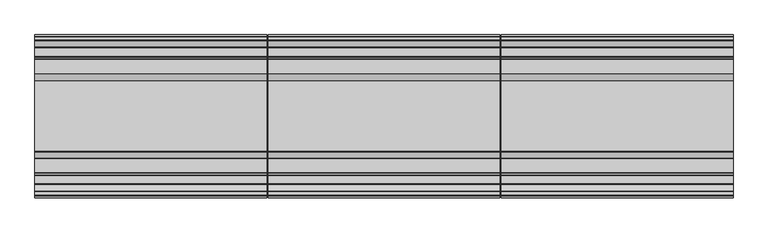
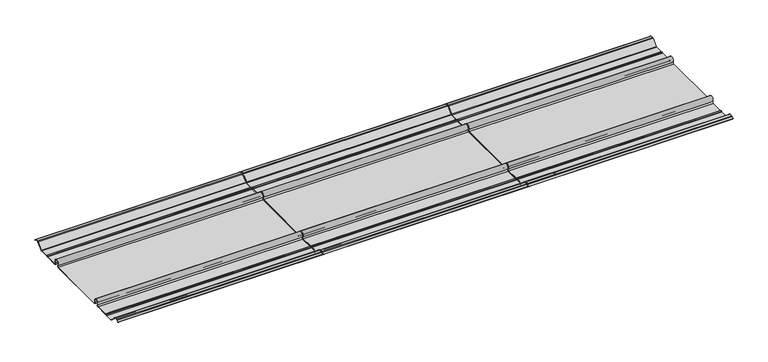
"""IFC4 building model written with IfcOpenShell, lengths in millimetres: proxy geometry, Xlath-LR : Xlath-LR."""

from ifc_helpers import new_model, si_unit, point, frame, frame_2d, origin, place, context, project, spatial, polyline, circle_curve, trimmed, segment, composite_curve, outline, extrude, source, transform, mapped, element, save


def generic_models_d1c0a36d(model_context):
    return source(origin(), model_context, "Body", "SweptSolid", [
        extrude(outline(composite_curve([segment(polyline([(-4.021536, 17.692427), (0.0, 13.8209287), (-0.5628134, 13.2581153), (-4.8173305, 17.3539026)]), True, "CONTINUOUS"), segment(trimmed(circle_curve(frame_2d((-6.6934261, 15.4051)), 2.7051), [point((-4.8173305, 17.3539026))], [point((-6.6934261, 18.1102))], True, "CARTESIAN"), True, "CONTINUOUS"), segment(polyline([(-6.6934261, 18.1102), (-13.8817457, 18.1102)]), True, "CONTINUOUS"), segment(trimmed(circle_curve(frame_2d((-13.8817457, 15.4051)), 2.7051), [point((-13.8817457, 18.1102))], [point((-15.8059623, 17.3064039))], True, "CARTESIAN"), True, "CONTINUOUS"), segment(polyline([(-15.8059623, 17.3064039), (-31.9741011, 0.9434226)]), True, "CONTINUOUS"), segment(trimmed(circle_curve(frame_2d((-34.2325712, 3.175)), 3.175), [point((-31.9741011, 0.9434226))], [point((-34.2325712, 0.0))], False, "CARTESIAN"), True, "CONTINUOUS"), segment(polyline([(-34.2325712, 0.0), (-57.3486405, 0.0)]), True, "CONTINUOUS"), segment(trimmed(circle_curve(frame_2d((-57.3486405, 3.175)), 3.175), [point((-57.3486405, 0.0))], [point((-59.3419174, 0.70367))], False, "CARTESIAN"), True, "CONTINUOUS"), segment(trimmed(circle_curve(frame_2d((-61.3351943, -1.7676601)), 3.175), [point((-59.3419174, 0.70367))], [point((-63.3284712, 0.70367))], True, "CARTESIAN"), True, "CONTINUOUS"), segment(trimmed(circle_curve(frame_2d((-65.3217481, 3.175)), 3.175), [point((-63.3284712, 0.70367))], [point((-65.3217481, 0.0))], False, "CARTESIAN"), True, "CONTINUOUS"), segment(polyline([(-65.3217481, 0.0), (-102.59972, 0.0)]), True, "CONTINUOUS"), segment(trimmed(circle_curve(frame_2d((-102.59972, 3.3362305)), 3.3362305), [point((-102.59972, 0.0))], [point((-105.2911698, 5.3076593))], False, "CARTESIAN"), True, "CONTINUOUS"), segment(trimmed(circle_curve(frame_2d((-111.8031627, 10.0775533)), 8.0720469), [point((-105.2911698, 5.3076593))], [point((-118.3151555, 5.3076593))], True, "CARTESIAN"), True, "CONTINUOUS"), segment(trimmed(circle_curve(frame_2d((-121.0066054, 3.3362305)), 3.3362305), [point((-118.3151555, 5.3076593))], [point((-121.0066054, 0.0))], False, "CARTESIAN"), True, "CONTINUOUS"), segment(polyline([(-121.0066054, 0.0), (-306.0308946, 0.0)]), True, "CONTINUOUS"), segment(trimmed(circle_curve(frame_2d((-306.0308946, 3.3362305)), 3.3362305), [point((-306.0308946, 0.0))], [point((-308.7223445, 5.3076593))], False, "CARTESIAN"), True, "CONTINUOUS"), segment(trimmed(circle_curve(frame_2d((-315.2343373, 10.0775533)), 8.0720469), [point((-308.7223445, 5.3076593))], [point((-321.7463302, 5.3076593))], True, "CARTESIAN"), True, "CONTINUOUS"), segment(trimmed(circle_curve(frame_2d((-324.43778, 3.3362305)), 3.3362305), [point((-321.7463302, 5.3076593))], [point((-324.43778, 0.0))], False, "CARTESIAN"), True, "CONTINUOUS"), segment(polyline([(-324.43778, 0.0), (-361.7157519, 0.0)]), True, "CONTINUOUS"), segment(trimmed(circle_curve(frame_2d((-361.7157519, 3.175)), 3.175), [point((-361.7157519, 0.0))], [point((-363.7090288, 0.70367))], False, "CARTESIAN"), True, "CONTINUOUS"), segment(trimmed(circle_curve(frame_2d((-365.7023057, -1.7676601)), 3.175), [point((-363.7090288, 0.70367))], [point((-367.6955826, 0.70367))], True, "CARTESIAN"), True, "CONTINUOUS"), segment(trimmed(circle_curve(frame_2d((-369.6888595, 3.175)), 3.175), [point((-367.6955826, 0.70367))], [point((-369.6888595, 0.0))], False, "CARTESIAN"), True, "CONTINUOUS"), segment(polyline([(-369.6888595, 0.0), (-391.0183557, 0.0)]), True, "CONTINUOUS"), segment(trimmed(circle_curve(frame_2d((-391.0183557, 3.175)), 3.175), [point((-391.0183557, 0.0))], [point((-393.2768259, 0.9434226))], False, "CARTESIAN"), True, "CONTINUOUS"), segment(polyline([(-393.2768259, 0.9434226), (-409.9092693, 17.7763039)]), True, "CONTINUOUS"), segment(trimmed(circle_curve(frame_2d((-411.8334859, 15.875)), 2.7051), [point((-409.9092693, 17.7763039))], [point((-411.8334859, 18.5801))], True, "CARTESIAN"), True, "CONTINUOUS"), segment(polyline([(-411.8334859, 18.5801), (-420.3440739, 18.5801)]), True, "CONTINUOUS"), segment(trimmed(circle_curve(frame_2d((-420.3440739, 15.875)), 2.7051), [point((-420.3440739, 18.5801))], [point((-422.2201695, 17.8238026))], True, "CARTESIAN"), True, "CONTINUOUS"), segment(polyline([(-422.2201695, 17.8238026), (-426.4855845, 13.717524), (-427.0483979, 14.2803374), (-423.015964, 18.162327)]), True, "CONTINUOUS"), segment(trimmed(circle_curve(frame_2d((-420.8139739, 15.875)), 3.175), [point((-423.015964, 18.162327))], [point((-420.8139739, 19.05))], False, "CARTESIAN"), True, "CONTINUOUS"), segment(polyline([(-420.8139739, 19.05), (-411.8334859, 19.05)]), True, "CONTINUOUS"), segment(trimmed(circle_curve(frame_2d((-411.8334859, 15.875)), 3.175), [point((-411.8334859, 19.05))], [point((-409.5750157, 18.1065774))], False, "CARTESIAN"), True, "CONTINUOUS"), segment(polyline([(-409.5750157, 18.1065774), (-392.9425723, 1.2736961)]), True, "CONTINUOUS"), segment(trimmed(circle_curve(frame_2d((-391.0183557, 3.175)), 2.7051), [point((-392.9425723, 1.2736961))], [point((-391.0183557, 0.4699))], True, "CARTESIAN"), True, "CONTINUOUS"), segment(polyline([(-391.0183557, 0.4699), (-369.8514296, 0.4699)]), True, "CONTINUOUS"), segment(trimmed(circle_curve(frame_2d((-369.8514296, 3.6449)), 3.175), [point((-369.8514296, 0.4699))], [point((-367.9198077, 1.1250862))], True, "CARTESIAN"), True, "CONTINUOUS"), segment(trimmed(circle_curve(frame_2d((-365.7023057, -1.7676601)), 3.6449), [point((-367.9198077, 1.1250862))], [point((-363.4848037, 1.1250862))], False, "CARTESIAN"), True, "CONTINUOUS"), segment(trimmed(circle_curve(frame_2d((-361.5531818, 3.6449)), 3.175), [point((-363.4848037, 1.1250862))], [point((-361.5531818, 0.4699))], True, "CARTESIAN"), True, "CONTINUOUS"), segment(polyline([(-361.5531818, 0.4699), (-324.43778, 0.4699)]), True, "CONTINUOUS"), segment(trimmed(circle_curve(frame_2d((-324.43778, 3.3362305)), 2.8663305), [point((-324.43778, 0.4699))], [point((-322.1254144, 5.0299883))], True, "CARTESIAN"), True, "CONTINUOUS"), segment(trimmed(circle_curve(frame_2d((-315.2343373, 10.0775533)), 8.5419469), [point((-322.1254144, 5.0299883))], [point((-308.3432603, 5.0299883))], False, "CARTESIAN"), True, "CONTINUOUS"), segment(trimmed(circle_curve(frame_2d((-306.0308946, 3.3362305)), 2.8663305), [point((-308.3432603, 5.0299883))], [point((-306.0308946, 0.4699))], True, "CARTESIAN"), True, "CONTINUOUS"), segment(polyline([(-306.0308946, 0.4699), (-121.0066054, 0.4699)]), True, "CONTINUOUS"), segment(trimmed(circle_curve(frame_2d((-121.0066054, 3.3362305)), 2.8663305), [point((-121.0066054, 0.4699))], [point((-118.6942397, 5.0299883))], True, "CARTESIAN"), True, "CONTINUOUS"), segment(trimmed(circle_curve(frame_2d((-111.8031627, 10.0775533)), 8.5419469), [point((-118.6942397, 5.0299883))], [point((-104.9120856, 5.0299883))], False, "CARTESIAN"), True, "CONTINUOUS"), segment(trimmed(circle_curve(frame_2d((-102.59972, 3.3362305)), 2.8663305), [point((-104.9120856, 5.0299883))], [point((-102.59972, 0.4699))], True, "CARTESIAN"), True, "CONTINUOUS"), segment(polyline([(-102.59972, 0.4699), (-65.4843182, 0.4699)]), True, "CONTINUOUS"), segment(trimmed(circle_curve(frame_2d((-65.4843182, 3.6449)), 3.175), [point((-65.4843182, 0.4699))], [point((-63.5526963, 1.1250862))], True, "CARTESIAN"), True, "CONTINUOUS"), segment(trimmed(circle_curve(frame_2d((-61.3351943, -1.7676601)), 3.6449), [point((-63.5526963, 1.1250862))], [point((-59.1176923, 1.1250862))], False, "CARTESIAN"), True, "CONTINUOUS"), segment(trimmed(circle_curve(frame_2d((-57.1860704, 3.6449)), 3.175), [point((-59.1176923, 1.1250862))], [point((-57.1860704, 0.4699))], True, "CARTESIAN"), True, "CONTINUOUS"), segment(polyline([(-57.1860704, 0.4699), (-34.2325712, 0.4699)]), True, "CONTINUOUS"), segment(trimmed(circle_curve(frame_2d((-34.2325712, 3.175)), 2.7051), [point((-34.2325712, 0.4699))], [point((-32.3083547, 1.2736961))], True, "CARTESIAN"), True, "CONTINUOUS"), segment(polyline([(-32.3083547, 1.2736961), (-16.1402159, 17.6366774)]), True, "CONTINUOUS"), segment(trimmed(circle_curve(frame_2d((-13.8817457, 15.4051)), 3.175), [point((-16.1402159, 17.6366774))], [point((-13.8817457, 18.5801))], False, "CARTESIAN"), True, "CONTINUOUS"), segment(polyline([(-13.8817457, 18.5801), (-6.2235261, 18.5801)]), True, "CONTINUOUS"), segment(trimmed(circle_curve(frame_2d((-6.2235261, 15.4051)), 3.175), [point((-6.2235261, 18.5801))], [point((-4.021536, 17.692427))], False, "CARTESIAN"), True, "CONTINUOUS")], self_intersect=False)), frame((1219.2, 0.0, 0.0), z_axis=(1.0, 0.0, 0.0), x_axis=(0.0, 1.0, 0.0)), (0.0, 0.0, 1.0), 606.425),
        extrude(outline(composite_curve([segment(polyline([(-4.021536, 17.692427), (0.0, 13.8209287), (-0.5628134, 13.2581153), (-4.8173305, 17.3539026)]), True, "CONTINUOUS"), segment(trimmed(circle_curve(frame_2d((-6.6934261, 15.4051)), 2.7051), [point((-4.8173305, 17.3539026))], [point((-6.6934261, 18.1102))], True, "CARTESIAN"), True, "CONTINUOUS"), segment(polyline([(-6.6934261, 18.1102), (-13.8817457, 18.1102)]), True, "CONTINUOUS"), segment(trimmed(circle_curve(frame_2d((-13.8817457, 15.4051)), 2.7051), [point((-13.8817457, 18.1102))], [point((-15.8059623, 17.3064039))], True, "CARTESIAN"), True, "CONTINUOUS"), segment(polyline([(-15.8059623, 17.3064039), (-31.9741011, 0.9434226)]), True, "CONTINUOUS"), segment(trimmed(circle_curve(frame_2d((-34.2325712, 3.175)), 3.175), [point((-31.9741011, 0.9434226))], [point((-34.2325712, 0.0))], False, "CARTESIAN"), True, "CONTINUOUS"), segment(polyline([(-34.2325712, 0.0), (-57.3486405, 0.0)]), True, "CONTINUOUS"), segment(trimmed(circle_curve(frame_2d((-57.3486405, 3.175)), 3.175), [point((-57.3486405, 0.0))], [point((-59.3419174, 0.70367))], False, "CARTESIAN"), True, "CONTINUOUS"), segment(trimmed(circle_curve(frame_2d((-61.3351943, -1.7676601)), 3.175), [point((-59.3419174, 0.70367))], [point((-63.3284712, 0.70367))], True, "CARTESIAN"), True, "CONTINUOUS"), segment(trimmed(circle_curve(frame_2d((-65.3217481, 3.175)), 3.175), [point((-63.3284712, 0.70367))], [point((-65.3217481, 0.0))], False, "CARTESIAN"), True, "CONTINUOUS"), segment(polyline([(-65.3217481, 0.0), (-102.59972, 0.0)]), True, "CONTINUOUS"), segment(trimmed(circle_curve(frame_2d((-102.59972, 3.3362305)), 3.3362305), [point((-102.59972, 0.0))], [point((-105.2911698, 5.3076593))], False, "CARTESIAN"), True, "CONTINUOUS"), segment(trimmed(circle_curve(frame_2d((-111.8031627, 10.0775533)), 8.0720469), [point((-105.2911698, 5.3076593))], [point((-118.3151555, 5.3076593))], True, "CARTESIAN"), True, "CONTINUOUS"), segment(trimmed(circle_curve(frame_2d((-121.0066054, 3.3362305)), 3.3362305), [point((-118.3151555, 5.3076593))], [point((-121.0066054, 0.0))], False, "CARTESIAN"), True, "CONTINUOUS"), segment(polyline([(-121.0066054, 0.0), (-306.0308946, 0.0)]), True, "CONTINUOUS"), segment(trimmed(circle_curve(frame_2d((-306.0308946, 3.3362305)), 3.3362305), [point((-306.0308946, 0.0))], [point((-308.7223445, 5.3076593))], False, "CARTESIAN"), True, "CONTINUOUS"), segment(trimmed(circle_curve(frame_2d((-315.2343373, 10.0775533)), 8.0720469), [point((-308.7223445, 5.3076593))], [point((-321.7463302, 5.3076593))], True, "CARTESIAN"), True, "CONTINUOUS"), segment(trimmed(circle_curve(frame_2d((-324.43778, 3.3362305)), 3.3362305), [point((-321.7463302, 5.3076593))], [point((-324.43778, 0.0))], False, "CARTESIAN"), True, "CONTINUOUS"), segment(polyline([(-324.43778, 0.0), (-361.7157519, 0.0)]), True, "CONTINUOUS"), segment(trimmed(circle_curve(frame_2d((-361.7157519, 3.175)), 3.175), [point((-361.7157519, 0.0))], [point((-363.7090288, 0.70367))], False, "CARTESIAN"), True, "CONTINUOUS"), segment(trimmed(circle_curve(frame_2d((-365.7023057, -1.7676601)), 3.175), [point((-363.7090288, 0.70367))], [point((-367.6955826, 0.70367))], True, "CARTESIAN"), True, "CONTINUOUS"), segment(trimmed(circle_curve(frame_2d((-369.6888595, 3.175)), 3.175), [point((-367.6955826, 0.70367))], [point((-369.6888595, 0.0))], False, "CARTESIAN"), True, "CONTINUOUS"), segment(polyline([(-369.6888595, 0.0), (-391.0183557, 0.0)]), True, "CONTINUOUS"), segment(trimmed(circle_curve(frame_2d((-391.0183557, 3.175)), 3.175), [point((-391.0183557, 0.0))], [point((-393.2768259, 0.9434226))], False, "CARTESIAN"), True, "CONTINUOUS"), segment(polyline([(-393.2768259, 0.9434226), (-409.9092693, 17.7763039)]), True, "CONTINUOUS"), segment(trimmed(circle_curve(frame_2d((-411.8334859, 15.875)), 2.7051), [point((-409.9092693, 17.7763039))], [point((-411.8334859, 18.5801))], True, "CARTESIAN"), True, "CONTINUOUS"), segment(polyline([(-411.8334859, 18.5801), (-420.3440739, 18.5801)]), True, "CONTINUOUS"), segment(trimmed(circle_curve(frame_2d((-420.3440739, 15.875)), 2.7051), [point((-420.3440739, 18.5801))], [point((-422.2201695, 17.8238026))], True, "CARTESIAN"), True, "CONTINUOUS"), segment(polyline([(-422.2201695, 17.8238026), (-426.4855845, 13.717524), (-427.0483979, 14.2803374), (-423.015964, 18.162327)]), True, "CONTINUOUS"), segment(trimmed(circle_curve(frame_2d((-420.8139739, 15.875)), 3.175), [point((-423.015964, 18.162327))], [point((-420.8139739, 19.05))], False, "CARTESIAN"), True, "CONTINUOUS"), segment(polyline([(-420.8139739, 19.05), (-411.8334859, 19.05)]), True, "CONTINUOUS"), segment(trimmed(circle_curve(frame_2d((-411.8334859, 15.875)), 3.175), [point((-411.8334859, 19.05))], [point((-409.5750157, 18.1065774))], False, "CARTESIAN"), True, "CONTINUOUS"), segment(polyline([(-409.5750157, 18.1065774), (-392.9425723, 1.2736961)]), True, "CONTINUOUS"), segment(trimmed(circle_curve(frame_2d((-391.0183557, 3.175)), 2.7051), [point((-392.9425723, 1.2736961))], [point((-391.0183557, 0.4699))], True, "CARTESIAN"), True, "CONTINUOUS"), segment(polyline([(-391.0183557, 0.4699), (-369.8514296, 0.4699)]), True, "CONTINUOUS"), segment(trimmed(circle_curve(frame_2d((-369.8514296, 3.6449)), 3.175), [point((-369.8514296, 0.4699))], [point((-367.9198077, 1.1250862))], True, "CARTESIAN"), True, "CONTINUOUS"), segment(trimmed(circle_curve(frame_2d((-365.7023057, -1.7676601)), 3.6449), [point((-367.9198077, 1.1250862))], [point((-363.4848037, 1.1250862))], False, "CARTESIAN"), True, "CONTINUOUS"), segment(trimmed(circle_curve(frame_2d((-361.5531818, 3.6449)), 3.175), [point((-363.4848037, 1.1250862))], [point((-361.5531818, 0.4699))], True, "CARTESIAN"), True, "CONTINUOUS"), segment(polyline([(-361.5531818, 0.4699), (-324.43778, 0.4699)]), True, "CONTINUOUS"), segment(trimmed(circle_curve(frame_2d((-324.43778, 3.3362305)), 2.8663305), [point((-324.43778, 0.4699))], [point((-322.1254144, 5.0299883))], True, "CARTESIAN"), True, "CONTINUOUS"), segment(trimmed(circle_curve(frame_2d((-315.2343373, 10.0775533)), 8.5419469), [point((-322.1254144, 5.0299883))], [point((-308.3432603, 5.0299883))], False, "CARTESIAN"), True, "CONTINUOUS"), segment(trimmed(circle_curve(frame_2d((-306.0308946, 3.3362305)), 2.8663305), [point((-308.3432603, 5.0299883))], [point((-306.0308946, 0.4699))], True, "CARTESIAN"), True, "CONTINUOUS"), segment(polyline([(-306.0308946, 0.4699), (-121.0066054, 0.4699)]), True, "CONTINUOUS"), segment(trimmed(circle_curve(frame_2d((-121.0066054, 3.3362305)), 2.8663305), [point((-121.0066054, 0.4699))], [point((-118.6942397, 5.0299883))], True, "CARTESIAN"), True, "CONTINUOUS"), segment(trimmed(circle_curve(frame_2d((-111.8031627, 10.0775533)), 8.5419469), [point((-118.6942397, 5.0299883))], [point((-104.9120856, 5.0299883))], False, "CARTESIAN"), True, "CONTINUOUS"), segment(trimmed(circle_curve(frame_2d((-102.59972, 3.3362305)), 2.8663305), [point((-104.9120856, 5.0299883))], [point((-102.59972, 0.4699))], True, "CARTESIAN"), True, "CONTINUOUS"), segment(polyline([(-102.59972, 0.4699), (-65.4843182, 0.4699)]), True, "CONTINUOUS"), segment(trimmed(circle_curve(frame_2d((-65.4843182, 3.6449)), 3.175), [point((-65.4843182, 0.4699))], [point((-63.5526963, 1.1250862))], True, "CARTESIAN"), True, "CONTINUOUS"), segment(trimmed(circle_curve(frame_2d((-61.3351943, -1.7676601)), 3.6449), [point((-63.5526963, 1.1250862))], [point((-59.1176923, 1.1250862))], False, "CARTESIAN"), True, "CONTINUOUS"), segment(trimmed(circle_curve(frame_2d((-57.1860704, 3.6449)), 3.175), [point((-59.1176923, 1.1250862))], [point((-57.1860704, 0.4699))], True, "CARTESIAN"), True, "CONTINUOUS"), segment(polyline([(-57.1860704, 0.4699), (-34.2325712, 0.4699)]), True, "CONTINUOUS"), segment(trimmed(circle_curve(frame_2d((-34.2325712, 3.175)), 2.7051), [point((-34.2325712, 0.4699))], [point((-32.3083547, 1.2736961))], True, "CARTESIAN"), True, "CONTINUOUS"), segment(polyline([(-32.3083547, 1.2736961), (-16.1402159, 17.6366774)]), True, "CONTINUOUS"), segment(trimmed(circle_curve(frame_2d((-13.8817457, 15.4051)), 3.175), [point((-16.1402159, 17.6366774))], [point((-13.8817457, 18.5801))], False, "CARTESIAN"), True, "CONTINUOUS"), segment(polyline([(-13.8817457, 18.5801), (-6.2235261, 18.5801)]), True, "CONTINUOUS"), segment(trimmed(circle_curve(frame_2d((-6.2235261, 15.4051)), 3.175), [point((-6.2235261, 18.5801))], [point((-4.021536, 17.692427))], False, "CARTESIAN"), True, "CONTINUOUS")], self_intersect=False)), frame((609.6, 0.0, 0.0), z_axis=(1.0, 0.0, 0.0), x_axis=(0.0, 1.0, 0.0)), (0.0, 0.0, 1.0), 606.425),
        extrude(outline(composite_curve([segment(polyline([(-4.021536, 17.692427), (0.0, 13.8209287), (-0.5628134, 13.2581153), (-4.8173305, 17.3539026)]), True, "CONTINUOUS"), segment(trimmed(circle_curve(frame_2d((-6.6934261, 15.4051)), 2.7051), [point((-4.8173305, 17.3539026))], [point((-6.6934261, 18.1102))], True, "CARTESIAN"), True, "CONTINUOUS"), segment(polyline([(-6.6934261, 18.1102), (-13.8817457, 18.1102)]), True, "CONTINUOUS"), segment(trimmed(circle_curve(frame_2d((-13.8817457, 15.4051)), 2.7051), [point((-13.8817457, 18.1102))], [point((-15.8059623, 17.3064039))], True, "CARTESIAN"), True, "CONTINUOUS"), segment(polyline([(-15.8059623, 17.3064039), (-31.9741011, 0.9434226)]), True, "CONTINUOUS"), segment(trimmed(circle_curve(frame_2d((-34.2325712, 3.175)), 3.175), [point((-31.9741011, 0.9434226))], [point((-34.2325712, 0.0))], False, "CARTESIAN"), True, "CONTINUOUS"), segment(polyline([(-34.2325712, 0.0), (-57.3486405, 0.0)]), True, "CONTINUOUS"), segment(trimmed(circle_curve(frame_2d((-57.3486405, 3.175)), 3.175), [point((-57.3486405, 0.0))], [point((-59.3419174, 0.70367))], False, "CARTESIAN"), True, "CONTINUOUS"), segment(trimmed(circle_curve(frame_2d((-61.3351943, -1.7676601)), 3.175), [point((-59.3419174, 0.70367))], [point((-63.3284712, 0.70367))], True, "CARTESIAN"), True, "CONTINUOUS"), segment(trimmed(circle_curve(frame_2d((-65.3217481, 3.175)), 3.175), [point((-63.3284712, 0.70367))], [point((-65.3217481, 0.0))], False, "CARTESIAN"), True, "CONTINUOUS"), segment(polyline([(-65.3217481, 0.0), (-102.59972, 0.0)]), True, "CONTINUOUS"), segment(trimmed(circle_curve(frame_2d((-102.59972, 3.3362305)), 3.3362305), [point((-102.59972, 0.0))], [point((-105.2911698, 5.3076593))], False, "CARTESIAN"), True, "CONTINUOUS"), segment(trimmed(circle_curve(frame_2d((-111.8031627, 10.0775533)), 8.0720469), [point((-105.2911698, 5.3076593))], [point((-118.3151555, 5.3076593))], True, "CARTESIAN"), True, "CONTINUOUS"), segment(trimmed(circle_curve(frame_2d((-121.0066054, 3.3362305)), 3.3362305), [point((-118.3151555, 5.3076593))], [point((-121.0066054, 0.0))], False, "CARTESIAN"), True, "CONTINUOUS"), segment(polyline([(-121.0066054, 0.0), (-306.0308946, 0.0)]), True, "CONTINUOUS"), segment(trimmed(circle_curve(frame_2d((-306.0308946, 3.3362305)), 3.3362305), [point((-306.0308946, 0.0))], [point((-308.7223445, 5.3076593))], False, "CARTESIAN"), True, "CONTINUOUS"), segment(trimmed(circle_curve(frame_2d((-315.2343373, 10.0775533)), 8.0720469), [point((-308.7223445, 5.3076593))], [point((-321.7463302, 5.3076593))], True, "CARTESIAN"), True, "CONTINUOUS"), segment(trimmed(circle_curve(frame_2d((-324.43778, 3.3362305)), 3.3362305), [point((-321.7463302, 5.3076593))], [point((-324.43778, 0.0))], False, "CARTESIAN"), True, "CONTINUOUS"), segment(polyline([(-324.43778, 0.0), (-361.7157519, 0.0)]), True, "CONTINUOUS"), segment(trimmed(circle_curve(frame_2d((-361.7157519, 3.175)), 3.175), [point((-361.7157519, 0.0))], [point((-363.7090288, 0.70367))], False, "CARTESIAN"), True, "CONTINUOUS"), segment(trimmed(circle_curve(frame_2d((-365.7023057, -1.7676601)), 3.175), [point((-363.7090288, 0.70367))], [point((-367.6955826, 0.70367))], True, "CARTESIAN"), True, "CONTINUOUS"), segment(trimmed(circle_curve(frame_2d((-369.6888595, 3.175)), 3.175), [point((-367.6955826, 0.70367))], [point((-369.6888595, 0.0))], False, "CARTESIAN"), True, "CONTINUOUS"), segment(polyline([(-369.6888595, 0.0), (-391.0183557, 0.0)]), True, "CONTINUOUS"), segment(trimmed(circle_curve(frame_2d((-391.0183557, 3.175)), 3.175), [point((-391.0183557, 0.0))], [point((-393.2768259, 0.9434226))], False, "CARTESIAN"), True, "CONTINUOUS"), segment(polyline([(-393.2768259, 0.9434226), (-409.9092693, 17.7763039)]), True, "CONTINUOUS"), segment(trimmed(circle_curve(frame_2d((-411.8334859, 15.875)), 2.7051), [point((-409.9092693, 17.7763039))], [point((-411.8334859, 18.5801))], True, "CARTESIAN"), True, "CONTINUOUS"), segment(polyline([(-411.8334859, 18.5801), (-420.3440739, 18.5801)]), True, "CONTINUOUS"), segment(trimmed(circle_curve(frame_2d((-420.3440739, 15.875)), 2.7051), [point((-420.3440739, 18.5801))], [point((-422.2201695, 17.8238026))], True, "CARTESIAN"), True, "CONTINUOUS"), segment(polyline([(-422.2201695, 17.8238026), (-426.4855845, 13.717524), (-427.0483979, 14.2803374), (-423.015964, 18.162327)]), True, "CONTINUOUS"), segment(trimmed(circle_curve(frame_2d((-420.8139739, 15.875)), 3.175), [point((-423.015964, 18.162327))], [point((-420.8139739, 19.05))], False, "CARTESIAN"), True, "CONTINUOUS"), segment(polyline([(-420.8139739, 19.05), (-411.8334859, 19.05)]), True, "CONTINUOUS"), segment(trimmed(circle_curve(frame_2d((-411.8334859, 15.875)), 3.175), [point((-411.8334859, 19.05))], [point((-409.5750157, 18.1065774))], False, "CARTESIAN"), True, "CONTINUOUS"), segment(polyline([(-409.5750157, 18.1065774), (-392.9425723, 1.2736961)]), True, "CONTINUOUS"), segment(trimmed(circle_curve(frame_2d((-391.0183557, 3.175)), 2.7051), [point((-392.9425723, 1.2736961))], [point((-391.0183557, 0.4699))], True, "CARTESIAN"), True, "CONTINUOUS"), segment(polyline([(-391.0183557, 0.4699), (-369.8514296, 0.4699)]), True, "CONTINUOUS"), segment(trimmed(circle_curve(frame_2d((-369.8514296, 3.6449)), 3.175), [point((-369.8514296, 0.4699))], [point((-367.9198077, 1.1250862))], True, "CARTESIAN"), True, "CONTINUOUS"), segment(trimmed(circle_curve(frame_2d((-365.7023057, -1.7676601)), 3.6449), [point((-367.9198077, 1.1250862))], [point((-363.4848037, 1.1250862))], False, "CARTESIAN"), True, "CONTINUOUS"), segment(trimmed(circle_curve(frame_2d((-361.5531818, 3.6449)), 3.175), [point((-363.4848037, 1.1250862))], [point((-361.5531818, 0.4699))], True, "CARTESIAN"), True, "CONTINUOUS"), segment(polyline([(-361.5531818, 0.4699), (-324.43778, 0.4699)]), True, "CONTINUOUS"), segment(trimmed(circle_curve(frame_2d((-324.43778, 3.3362305)), 2.8663305), [point((-324.43778, 0.4699))], [point((-322.1254144, 5.0299883))], True, "CARTESIAN"), True, "CONTINUOUS"), segment(trimmed(circle_curve(frame_2d((-315.2343373, 10.0775533)), 8.5419469), [point((-322.1254144, 5.0299883))], [point((-308.3432603, 5.0299883))], False, "CARTESIAN"), True, "CONTINUOUS"), segment(trimmed(circle_curve(frame_2d((-306.0308946, 3.3362305)), 2.8663305), [point((-308.3432603, 5.0299883))], [point((-306.0308946, 0.4699))], True, "CARTESIAN"), True, "CONTINUOUS"), segment(polyline([(-306.0308946, 0.4699), (-121.0066054, 0.4699)]), True, "CONTINUOUS"), segment(trimmed(circle_curve(frame_2d((-121.0066054, 3.3362305)), 2.8663305), [point((-121.0066054, 0.4699))], [point((-118.6942397, 5.0299883))], True, "CARTESIAN"), True, "CONTINUOUS"), segment(trimmed(circle_curve(frame_2d((-111.8031627, 10.0775533)), 8.5419469), [point((-118.6942397, 5.0299883))], [point((-104.9120856, 5.0299883))], False, "CARTESIAN"), True, "CONTINUOUS"), segment(trimmed(circle_curve(frame_2d((-102.59972, 3.3362305)), 2.8663305), [point((-104.9120856, 5.0299883))], [point((-102.59972, 0.4699))], True, "CARTESIAN"), True, "CONTINUOUS"), segment(polyline([(-102.59972, 0.4699), (-65.4843182, 0.4699)]), True, "CONTINUOUS"), segment(trimmed(circle_curve(frame_2d((-65.4843182, 3.6449)), 3.175), [point((-65.4843182, 0.4699))], [point((-63.5526963, 1.1250862))], True, "CARTESIAN"), True, "CONTINUOUS"), segment(trimmed(circle_curve(frame_2d((-61.3351943, -1.7676601)), 3.6449), [point((-63.5526963, 1.1250862))], [point((-59.1176923, 1.1250862))], False, "CARTESIAN"), True, "CONTINUOUS"), segment(trimmed(circle_curve(frame_2d((-57.1860704, 3.6449)), 3.175), [point((-59.1176923, 1.1250862))], [point((-57.1860704, 0.4699))], True, "CARTESIAN"), True, "CONTINUOUS"), segment(polyline([(-57.1860704, 0.4699), (-34.2325712, 0.4699)]), True, "CONTINUOUS"), segment(trimmed(circle_curve(frame_2d((-34.2325712, 3.175)), 2.7051), [point((-34.2325712, 0.4699))], [point((-32.3083547, 1.2736961))], True, "CARTESIAN"), True, "CONTINUOUS"), segment(polyline([(-32.3083547, 1.2736961), (-16.1402159, 17.6366774)]), True, "CONTINUOUS"), segment(trimmed(circle_curve(frame_2d((-13.8817457, 15.4051)), 3.175), [point((-16.1402159, 17.6366774))], [point((-13.8817457, 18.5801))], False, "CARTESIAN"), True, "CONTINUOUS"), segment(polyline([(-13.8817457, 18.5801), (-6.2235261, 18.5801)]), True, "CONTINUOUS"), segment(trimmed(circle_curve(frame_2d((-6.2235261, 15.4051)), 3.175), [point((-6.2235261, 18.5801))], [point((-4.021536, 17.692427))], False, "CARTESIAN"), True, "CONTINUOUS")], self_intersect=False)), frame((0.0, 0.0, 0.0), z_axis=(1.0, 0.0, 0.0), x_axis=(0.0, 1.0, 0.0)), (0.0, 0.0, 1.0), 606.425),
    ])


if __name__ == "__main__":
    model = new_model("IFC4")
    model_context = context("Model", 3, world=origin())
    ifc_project = project(units=[si_unit("LENGTHUNIT", "METRE", prefix="MILLI")], contexts=[model_context])
    site = spatial("IfcSite", under=ifc_project)
    building = spatial("IfcBuilding", under=site)
    placement = place(None, origin())
    generic_models_shape = generic_models_d1c0a36d(model_context)
    element("IfcBuildingElementProxy", 1, Name="Xlath-LR : Xlath-LR", ObjectType="Xlath-LR : Xlath-LR", at=placement, inside=building, context=model_context, shape_type="MappedRepresentation", body=[
        mapped(generic_models_shape, transform((0.0, 0.0, 0.0), x_axis=(1.0, 0.0, 0.0), y_axis=(0.0, 1.0, 0.0), z_axis=(0.0, 0.0, 1.0))),
    ])
    save(model, "model.ifc")
